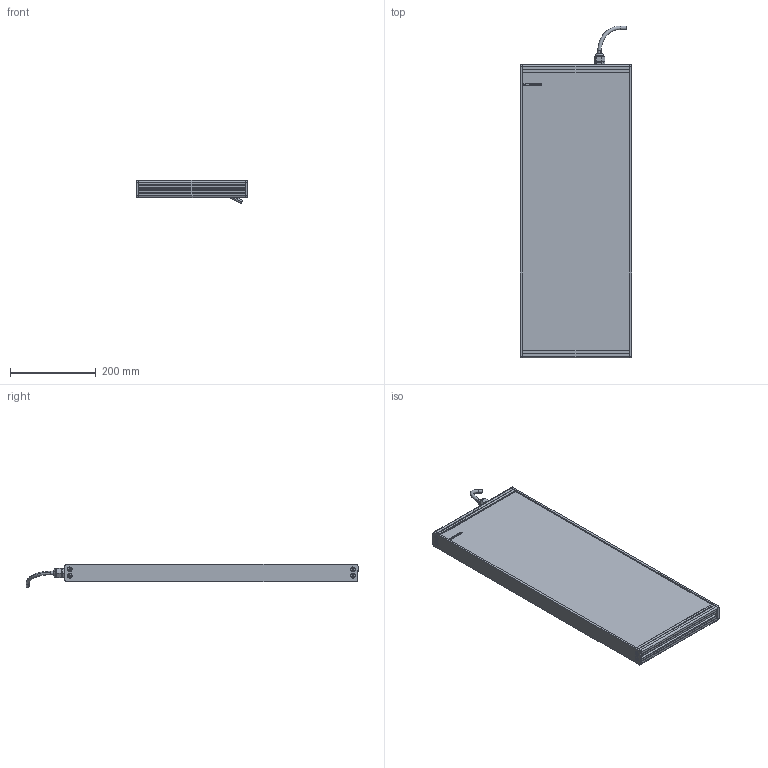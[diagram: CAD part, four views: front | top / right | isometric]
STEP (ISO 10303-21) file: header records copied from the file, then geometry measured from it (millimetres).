
FILE_DESCRIPTION (( 'STEP AP214' ), '1' );
FILE_NAME ('EFFI-BL-250T-650-1M12P.STEP', '2021-06-28T09:14:41', ( '' ), ( '' ), 'SwSTEP 2.0', 'SolidWorks 2021', '' );
FILE_SCHEMA (( 'AUTOMOTIVE_DESIGN' ));
Length unit declared in the file: millimetre
Products named in the file (7): profile modif_lg 99.5 mm; 003776; Pièce2^EFFI-BL-XXXT-YYY + M12P; EFFI-BL-250T-650-1M12P; M12 power; bord fin modif_lg 436.5 mm
Assembly tree (14 placements, depth 2):
  EFFI-BL-250T-650-1M12P
    profile modif_lg 99.5 mm
    bord fin modif_lg 436.5 mm  x2
    Pièce2^EFFI-BL-XXXT-YYY + M12P
    profile modif_lg 99.5 mm
    M12 power
    003776  x8
Bounding box: 260 x 776.45 x 53.92 mm (x, y, z)
Volume: 6183193.6 mm3; surface area: 594490.1 mm2
Topology: 13 solids, 16 shells, 569 faces, 1446 edges, 927 vertices
Faces by surface type: plane 327, bspline 125, cylinder 95, cone 18, torus 4
Entity records: 15286 total; most frequent: CARTESIAN_POINT 5076, ORIENTED_EDGE 2024, DIRECTION 1720, EDGE_CURVE 1014, VECTOR 756, LINE 756, VERTEX_POINT 670, AXIS2_PLACEMENT_3D 482
